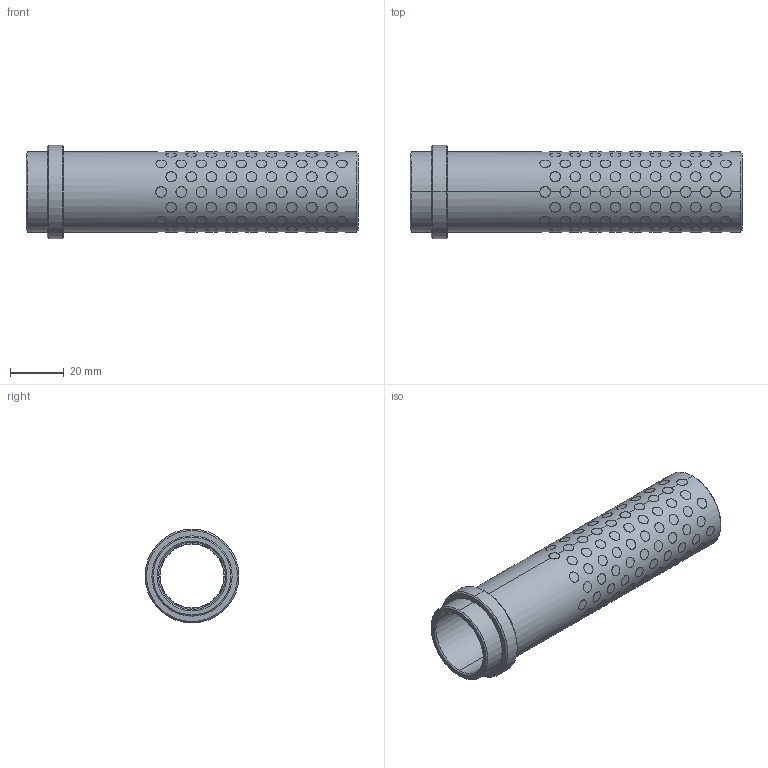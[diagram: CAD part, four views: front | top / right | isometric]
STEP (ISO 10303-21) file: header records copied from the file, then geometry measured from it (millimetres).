
FILE_DESCRIPTION((''),'2;1');
FILE_NAME('G31224116','2017-12-30T',('MANU'),(''),'PRO/ENGINEER BY PARAMETRIC TECHNOLOGY CORPORATION, 2012130','PRO/ENGINEER BY PARAMETRIC TECHNOLOGY CORPORATION, 2012130','');
FILE_SCHEMA(('CONFIG_CONTROL_DESIGN'));
Products named in the file (1): G31224116
Bounding box: 124 x 35 x 35 mm (x, y, z)
Volume: 31102.1 mm3; surface area: 33485.7 mm2
Topology: 153 solids, 153 shells, 939 faces, 1998 edges, 1328 vertices
Faces by surface type: cylinder 922, cone 12, plane 5
Entity records: 46736 total; most frequent: CARTESIAN_POINT 28519, ORIENTED_EDGE 3996, DIRECTION 2612, EDGE_CURVE 1998, VERTEX_POINT 1328, B_SPLINE_CURVE_WITH_KNOTS 1296, EDGE_LOOP 1208, AXIS2_PLACEMENT_3D 971
